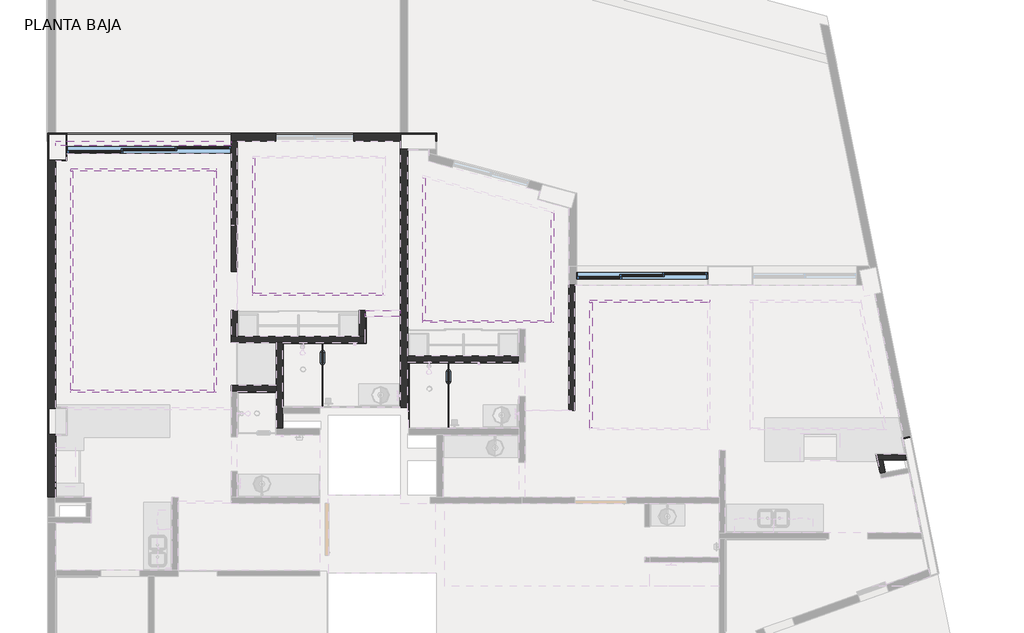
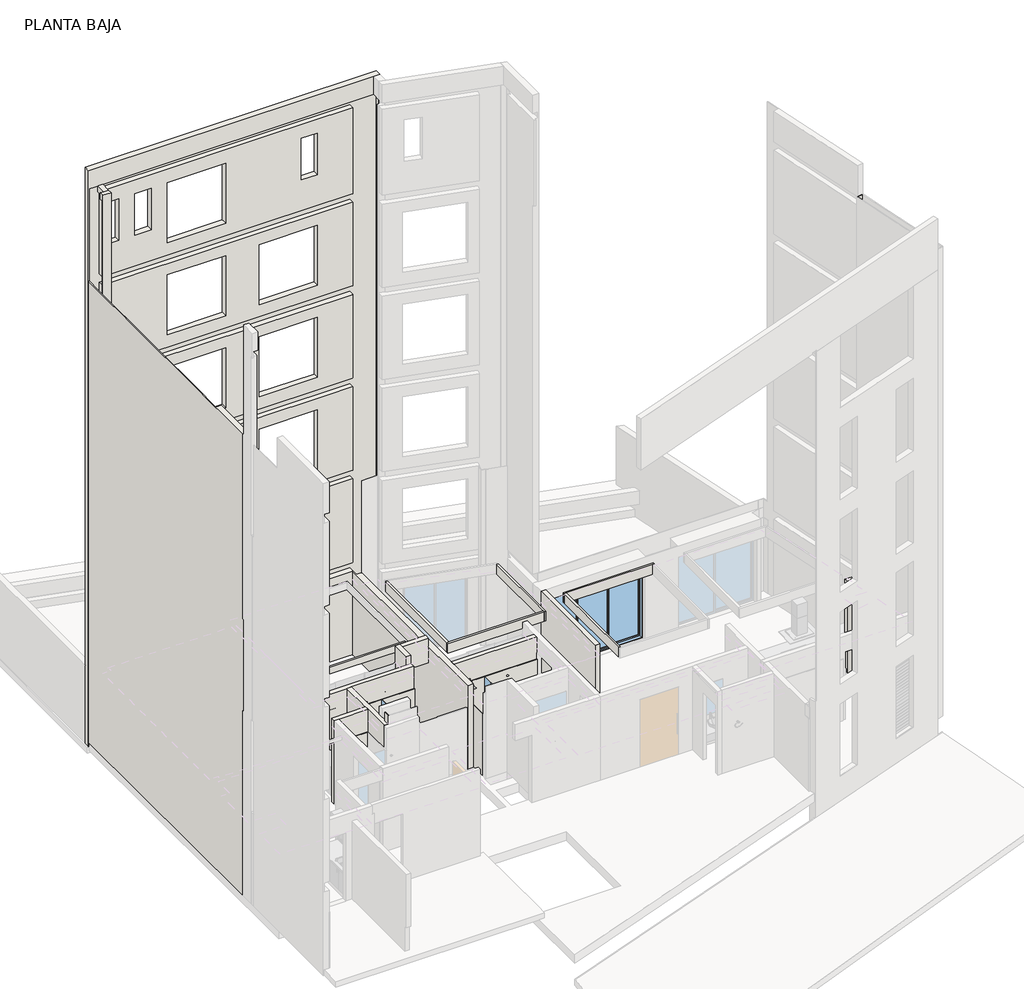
# One storey, part 6 of 8: 35 walls, 4 windows.
"""IFC4 building model written with IfcOpenShell, lengths in millimetres."""

from ifc_helpers import new_model, si_unit, frame, origin, origin_with_axes, place, context, project, spatial, polyline, outline, extrude, faceted_brep, transform, mapped, element, save
from components import window_a96bf420, window_c8eb3da8, window_f2be9482, window_db60b2a9

model = new_model("IFC4")

# Units and contexts
model_context = context("Model", 3, world=origin())
ifc_project = project(units=[si_unit("LENGTHUNIT", "METRE", prefix="MILLI")], contexts=[model_context])

# Site, building, storey
site = spatial("IfcSite", under=ifc_project)
building = spatial("IfcBuilding", under=site)
storey = spatial("IfcBuildingStorey", under=building, Name="PLANTA BAJA", Elevation=0.0)

# Walls
placement = place(None, origin())
element("IfcWall", 1, ObjectType="Muro block 12cms_int_ductos", at=placement, inside=storey, context=model_context, shape_type="SweptSolid", body=[
    extrude(outline(polyline([(53207.9252394, 30724.0100923), (53265.5912187, 30436.0959933), (53147.9280777, 30412.5293799), (53085.5419689, 30724.0100923), (53207.9252394, 30724.0100923)])), origin_with_axes(), (0.0, 0.0, 1.0), 3000.0),
])
element("IfcWall", 2, ObjectType="Muro block 12cms_int_ductos", at=placement, inside=storey, context=model_context, shape_type="Brep", body=[
    faceted_brep([(53085.5419689, 30724.0100923, 0.0), (53207.9252394, 30724.0100923, 0.0), (53760.5143431, 30724.0100923, 0.0), (53760.5143431, 30724.0100923, 3000.0), (53207.9252394, 30724.0100923, 3000.0), (53085.5419689, 30724.0100923, 3000.0), (53061.5073088, 30844.0100923, 0.0), (53061.5073088, 30844.0100923, 3000.0), (53736.479683, 30844.0100923, 3000.0), (53736.479683, 30844.0100923, 0.0)], [[[0, 1, 2, 3, 4, 5]], [[6, 7, 8, 9]], [[2, 1, 0, 6, 9]], [[5, 4, 3, 8, 7]], [[0, 5, 7, 6]], [[3, 2, 9, 8]]]),
])
element("IfcWall", 3, ObjectType="Plafond tablaroca", at=placement, inside=storey, context=model_context, shape_type="Brep", body=[
    faceted_brep([(34490.0408562, 37390.7875956, 2502.7), (34542.7408562, 37390.7875956, 2502.7), (37794.5300226, 37390.7875956, 2502.7), (37847.2300226, 37390.7875956, 2502.7), (37847.2300226, 37390.7875956, 2720.0), (37794.5300226, 37390.7875956, 2720.0), (34542.7408562, 37390.7875956, 2720.0), (34490.0408562, 37390.7875956, 2720.0), (34490.0408562, 37443.4875956, 2502.7), (34490.0408562, 37443.4875956, 2720.0), (37847.2300226, 37443.4875956, 2720.0), (37847.2300226, 37443.4875956, 2502.7)], [[[0, 1, 2, 3, 4, 5, 6, 7]], [[8, 9, 10, 11]], [[7, 6, 5, 4, 10, 9]], [[4, 3, 11, 10]], [[0, 7, 9, 8]], [[3, 2, 1, 0, 8, 11]]]),
])
element("IfcWall", 4, ObjectType="Plafond tablaroca", at=placement, inside=storey, context=model_context, shape_type="Brep", body=[
    faceted_brep([(37794.5300226, 37390.7875956, 2502.7), (37794.5300226, 32333.9733508, 2502.7), (37794.5300226, 32281.2733508, 2502.7), (37794.5300226, 32281.2733508, 2720.0), (37794.5300226, 32333.9733508, 2720.0), (37794.5300226, 37390.7875956, 2720.0), (37847.2300226, 37390.7875956, 2502.7), (37847.2300226, 37390.7875956, 2720.0), (37847.2300226, 32281.2733508, 2720.0), (37847.2300226, 32281.2733508, 2502.7)], [[[0, 1, 2, 3, 4, 5]], [[6, 7, 8, 9]], [[5, 4, 3, 8, 7]], [[0, 5, 7, 6]], [[3, 2, 9, 8]], [[2, 1, 0, 6, 9]]]),
])
element("IfcWall", 5, ObjectType="Plafond tablaroca", at=placement, inside=storey, context=model_context, shape_type="Brep", body=[
    faceted_brep([(37794.5300226, 32333.9733508, 2502.7), (34542.7408562, 32333.9733508, 2502.7), (34490.0408562, 32333.9733508, 2502.7), (34490.0408562, 32333.9733508, 2720.0), (34542.7408562, 32333.9733508, 2720.0), (37794.5300226, 32333.9733508, 2720.0), (37794.5300226, 32281.2733508, 2502.7), (37794.5300226, 32281.2733508, 2720.0), (34490.0408562, 32281.2733508, 2720.0), (34490.0408562, 32281.2733508, 2502.7)], [[[0, 1, 2, 3, 4, 5]], [[6, 7, 8, 9]], [[5, 4, 3, 8, 7]], [[0, 5, 7, 6]], [[3, 2, 9, 8]], [[2, 1, 0, 6, 9]]]),
])
element("IfcWall", 6, ObjectType="Plafond tablaroca", at=placement, inside=storey, context=model_context, shape_type="SweptSolid", body=[
    extrude(outline(polyline([(34542.7408562, 37390.7875956), (34542.7408562, 32333.9733508), (34490.0408562, 32333.9733508), (34490.0408562, 37390.7875956), (34542.7408562, 37390.7875956)])), frame((0.0, 0.0, 2502.7), z_axis=(0.0, 0.0, 1.0), x_axis=(1.0, 0.0, 0.0)), (0.0, 0.0, 1.0), 217.3),
])
element("IfcWall", 7, ObjectType="Plafond tablaroca", at=placement, inside=storey, context=model_context, shape_type="Brep", body=[
    faceted_brep([(41684.5059119, 34568.9785701, 2502.7), (38734.5300226, 34568.9785701, 2502.7), (38681.8300226, 34568.9785701, 2502.7), (38681.8300226, 34568.9785701, 2720.0), (38734.5300226, 34568.9785701, 2720.0), (41684.5059119, 34568.9785701, 2720.0), (41684.5059119, 34516.2785701, 2502.7), (41684.5059119, 34516.2785701, 2720.0), (38681.8300226, 34516.2785701, 2720.0), (38681.8300226, 34516.2785701, 2502.7)], [[[0, 1, 2, 3, 4, 5]], [[6, 7, 8, 9]], [[5, 4, 3, 8, 7]], [[0, 5, 7, 6]], [[3, 2, 9, 8]], [[2, 1, 0, 6, 9]]]),
])
element("IfcWall", 8, ObjectType="Plafond tablaroca", at=placement, inside=storey, context=model_context, shape_type="SweptSolid", body=[
    extrude(outline(polyline([(38734.5300226, 37680.4026232), (38734.5300226, 34568.9785701), (38681.8300226, 34568.9785701), (38681.8300226, 37680.4026232), (38734.5300226, 37680.4026232)])), frame((0.0, 0.0, 2502.7), z_axis=(0.0, 0.0, 1.0), x_axis=(1.0, 0.0, 0.0)), (0.0, 0.0, 1.0), 217.3),
])
element("IfcWall", 9, ObjectType="Plafond tablaroca", at=placement, inside=storey, context=model_context, shape_type="Brep", body=[
    faceted_brep([(45574.5059119, 36436.8800645, 2402.7), (45574.5059119, 33944.0113898, 2402.7), (45574.5059119, 33891.3113898, 2402.7), (45574.5059119, 33891.3113898, 2720.0), (45574.5059119, 33944.0113898, 2720.0), (45574.5059119, 36436.8800645, 2720.0), (45627.2059119, 36422.7090546, 2402.7), (45627.2059119, 36422.7090546, 2720.0), (45627.2059119, 33891.3113898, 2720.0), (45627.2059119, 33891.3113898, 2402.7)], [[[0, 1, 2, 3, 4, 5]], [[6, 7, 8, 9]], [[5, 4, 3, 8, 7]], [[0, 5, 7, 6]], [[3, 2, 9, 8]], [[2, 1, 0, 6, 9]]]),
])
element("IfcWall", 10, ObjectType="Plafond tablaroca", at=placement, inside=storey, context=model_context, shape_type="Brep", body=[
    faceted_brep([(45574.5059119, 33944.0113898, 2402.7), (42664.5059119, 33944.0113898, 2402.7), (42611.8059119, 33944.0113898, 2402.7), (42611.8059119, 33944.0113898, 2720.0), (42664.5059119, 33944.0113898, 2720.0), (45574.5059119, 33944.0113898, 2720.0), (45574.5059119, 33891.3113898, 2402.7), (45574.5059119, 33891.3113898, 2720.0), (42611.8059119, 33891.3113898, 2720.0), (42611.8059119, 33891.3113898, 2402.7)], [[[0, 1, 2, 3, 4, 5]], [[6, 7, 8, 9]], [[5, 4, 3, 8, 7]], [[0, 5, 7, 6]], [[3, 2, 9, 8]], [[2, 1, 0, 6, 9]]]),
])
element("IfcWall", 11, ObjectType="Plafond tablaroca", at=placement, inside=storey, context=model_context, shape_type="SweptSolid", body=[
    extrude(outline(polyline([(42664.5059119, 37219.3779563), (42664.5059119, 33944.0113898), (42611.8059119, 33944.0113898), (42611.8059119, 37233.5489662), (42664.5059119, 37219.3779563)])), frame((0.0, 0.0, 2402.7), z_axis=(0.0, 0.0, 1.0), x_axis=(1.0, 0.0, 0.0)), (0.0, 0.0, 1.0), 317.3),
])
element("IfcWall", 12, ObjectType="Plafond tablaroca", at=placement, inside=storey, context=model_context, shape_type="Brep", body=[
    faceted_brep([(46461.8059119, 34354.0104642, 2402.7), (46514.5059119, 34354.0104642, 2402.7), (49174.5059119, 34354.0104642, 2402.7), (49227.2059119, 34354.0104642, 2402.7), (49227.2059119, 34354.0104642, 2720.0), (49174.5059119, 34354.0104642, 2720.0), (46514.5059119, 34354.0104642, 2720.0), (46461.8059119, 34354.0104642, 2720.0), (46461.8059119, 34406.7104642, 2402.7), (46461.8059119, 34406.7104642, 2720.0), (49227.2059119, 34406.7104642, 2720.0), (49227.2059119, 34406.7104642, 2402.7)], [[[0, 1, 2, 3, 4, 5, 6, 7]], [[8, 9, 10, 11]], [[7, 6, 5, 4, 10, 9]], [[4, 3, 11, 10]], [[0, 7, 9, 8]], [[3, 2, 1, 0, 8, 11]]]),
])
element("IfcWall", 13, ObjectType="Plafond tablaroca", at=placement, inside=storey, context=model_context, shape_type="SweptSolid", body=[
    extrude(outline(polyline([(46514.5059119, 34354.0104642), (46514.5059119, 31464.0100656), (46461.8059119, 31464.0100656), (46461.8059119, 34354.0104642), (46514.5059119, 34354.0104642)])), frame((0.0, 0.0, 2402.7), z_axis=(0.0, 0.0, 1.0), x_axis=(1.0, 0.0, 0.0)), (0.0, 0.0, 1.0), 317.3),
])
element("IfcWall", 14, ObjectType="Muro solo enjarre -2cms", at=placement, inside=storey, context=model_context, shape_type="SweptSolid", body=[
    extrude(outline(polyline([(53679.3134026, 31231.2682854), (53846.0028523, 31264.654321), (53849.9306212, 31245.0437975), (53683.2411715, 31211.657762), (53679.3134026, 31231.2682854)])), frame((0.0, 0.0, -280.0), z_axis=(0.0, 0.0, 1.0), x_axis=(1.0, 0.0, 0.0)), (0.0, 0.0, 1.0), 15280.0),
])
element("IfcWall", 15, ObjectType="Cerámica baño", at=placement, inside=storey, context=model_context, shape_type="Brep", body=[
    faceted_brep([(39394.5300226, 31953.9733508, 0.0), (39394.5300226, 33408.9784839, 0.0), (39394.5300226, 33428.9784839, 0.0), (39394.5300226, 33428.9784839, 2000.0), (39394.5300226, 33408.9784839, 2000.0), (39394.5300226, 31953.9733508, 2000.0), (39374.5300226, 31953.9733508, 0.0), (39374.5300226, 31953.9733508, 2000.0), (39374.5300226, 33428.9784839, 2000.0), (39374.5300226, 33428.9784839, 0.0)], [[[0, 1, 2, 3, 4, 5]], [[6, 7, 8, 9]], [[2, 1, 0, 6, 9]], [[5, 4, 3, 8, 7]], [[3, 2, 9, 8]], [[0, 5, 7, 6]]]),
])
element("IfcWall", 16, ObjectType="Cerámica baño", at=placement, inside=storey, context=model_context, shape_type="Brep", body=[
    faceted_brep([(39394.5300226, 33408.9784839, 0.0), (41304.5059119, 33408.9784839, 0.0), (41304.5059119, 33408.9784839, 2000.0), (39394.5300226, 33408.9784839, 2000.0), (39394.5300226, 33428.9784839, 0.0), (39394.5300226, 33428.9784839, 2000.0), (41304.5059119, 33428.9784839, 2000.0), (41304.5059119, 33428.9784839, 1000.0), (41304.5059119, 33428.9784839, 0.0), (41284.5059119, 33428.9784839, 0.0)], [[[0, 1, 2, 3]], [[4, 5, 6, 7, 8, 9]], [[1, 0, 4, 9, 8]], [[3, 2, 6, 5]], [[0, 3, 5, 4]], [[2, 1, 8, 7, 6]]]),
])
element("IfcWall", 17, ObjectType="Cerámica baño", at=placement, inside=storey, context=model_context, shape_type="Brep", body=[
    faceted_brep([(42299.5059119, 31464.0104754, 0.0), (42299.5059119, 32964.0113856, 0.0), (42299.5059119, 32984.0113856, 0.0), (42299.5059119, 32984.0113856, 2000.0), (42299.5059119, 32964.0113856, 2000.0), (42299.5059119, 31464.0104754, 2000.0), (42279.5059119, 31464.0104754, 0.0), (42279.5059119, 31464.0104754, 2000.0), (42279.5059119, 32984.0113856, 2000.0), (42279.5059119, 32984.0113856, 0.0)], [[[0, 1, 2, 3, 4, 5]], [[6, 7, 8, 9]], [[2, 1, 0, 6, 9]], [[5, 4, 3, 8, 7]], [[3, 2, 9, 8]], [[0, 5, 7, 6]]]),
])
element("IfcWall", 18, ObjectType="Cerámica baño", at=placement, inside=storey, context=model_context, shape_type="SweptSolid", body=[
    extrude(outline(polyline([(44824.5251366, 32964.0113856), (42299.5059119, 32964.0113856), (42299.5059119, 32984.0113856), (44824.5251366, 32984.0113856), (44824.5251366, 32964.0113856)])), origin_with_axes(), (0.0, 0.0, 1.0), 2000.0),
])
element("IfcWall", 19, ObjectType="Cerámica baño", at=placement, inside=storey, context=model_context, shape_type="SweptSolid", body=[
    extrude(outline(polyline([(41304.5059119, 34028.9785701), (41304.5059119, 33428.9784839), (41284.5059119, 33428.9784839), (41284.5059119, 34028.9785701), (41304.5059119, 34028.9785701)])), origin_with_axes(), (0.0, 0.0, 1.0), 1000.0),
])
element("IfcWall", 20, ObjectType="Cerámica baño", at=placement, inside=storey, context=model_context, shape_type="Brep", body=[
    faceted_brep([(39214.5300226, 32304.010477, 0.0), (38334.5300226, 32304.010477, 0.0), (38334.5300226, 32304.010477, 2000.0), (39214.5300226, 32304.010477, 2000.0), (39214.5300226, 32284.010477, 0.0), (39214.5300226, 32284.010477, 2000.0), (38354.5300226, 32284.010477, 2000.0), (38334.5300226, 32284.010477, 2000.0), (38334.5300226, 32284.010477, 0.0), (38354.5300226, 32284.010477, 0.0)], [[[0, 1, 2, 3]], [[4, 5, 6, 7, 8, 9]], [[1, 0, 4, 9, 8]], [[3, 2, 7, 6, 5]], [[2, 1, 8, 7]], [[0, 3, 5, 4]]]),
])
element("IfcWall", 21, ObjectType="Muro block 14cms_int", at=placement, inside=storey, context=model_context, shape_type="Brep", body=[
    faceted_brep([(39374.5300226, 31444.010477, 0.0), (39374.5300226, 31793.9733508, 0.0), (39374.5300226, 31933.9733508, 0.0), (39374.5300226, 33428.9784839, 0.0), (39374.5300226, 33428.9784839, 2720.0), (39374.5300226, 31613.9733508, 2720.0), (39374.5300226, 31613.9733508, 3000.0), (39374.5300226, 31444.010477, 3000.0), (39234.5300226, 33428.9784839, 0.0), (39234.5300226, 32444.010477, 0.0), (39234.5300226, 32304.010477, 0.0), (39234.5300226, 31444.010477, 0.0), (39234.5300226, 31444.010477, 2720.0), (39234.5300226, 32304.010477, 2720.0), (39234.5300226, 32444.010477, 2720.0), (39234.5300226, 33428.9784839, 2720.0), (39354.5300226, 31613.9733508, 3000.0), (39354.5300226, 31444.010477, 3000.0), (39354.5300226, 31613.9733508, 2720.0), (39354.5300226, 31444.010477, 2720.0)], [[[0, 1, 2, 3, 4, 5, 6, 7]], [[8, 9, 10, 11, 12, 13, 14, 15]], [[3, 2, 1, 0, 11, 10, 9, 8]], [[7, 6, 16, 17]], [[3, 8, 15, 4]], [[18, 5, 4, 15, 14, 13, 12, 19]], [[16, 18, 19, 17]], [[18, 16, 6, 5]], [[0, 7, 17, 19, 12, 11]]]),
])
element("IfcWall", 22, ObjectType="Muro block 14cms_int", at=placement, inside=storey, context=model_context, shape_type="Brep", body=[
    faceted_brep([(41284.5059119, 33568.9784839, 0.0), (41144.5059119, 33568.9784839, 0.0), (38334.5300226, 33568.9784839, 0.0), (38194.5300226, 33568.9784839, 0.0), (38194.5300226, 33568.9784839, 2720.0), (41284.5059119, 33568.9784839, 2720.0), (38194.5300226, 33428.9784839, 0.0), (39234.5300226, 33428.9784839, 0.0), (39374.5300226, 33428.9784839, 0.0), (41284.5059119, 33428.9784839, 0.0), (41284.5059119, 33428.9784839, 2720.0), (39374.5300226, 33428.9784839, 2720.0), (39234.5300226, 33428.9784839, 2720.0), (38194.5300226, 33428.9784839, 2720.0)], [[[0, 1, 2, 3, 4, 5]], [[6, 7, 8, 9, 10, 11, 12, 13]], [[3, 2, 1, 0, 9, 8, 7, 6]], [[3, 6, 13, 4]], [[9, 0, 5, 10]], [[5, 4, 13, 12, 11, 10]]]),
])
element("IfcWall", 23, ObjectType="Muro block 14cms_int", at=placement, inside=storey, context=model_context, shape_type="Brep", body=[
    faceted_brep([(38334.5300226, 38080.4026232, 3000.0), (38334.5300226, 33568.9784839, 3000.0), (38334.5300226, 33568.9784839, 0.0), (38334.5300226, 34168.9785701, 0.0), (38334.5300226, 34168.9785701, 2200.0), (38334.5300226, 35068.9785701, 2200.0), (38334.5300226, 35068.9785701, 0.0), (38334.5300226, 38080.4026232, 0.0), (38194.5300226, 33568.9784839, 3000.0), (38194.5300226, 38080.4026232, 3000.0), (38194.5300226, 38080.4026232, 2720.0), (38194.5300226, 38080.4026232, 2350.0), (38194.5300226, 38080.4026232, 0.0), (38194.5300226, 35068.9785701, 0.0), (38194.5300226, 35068.9785701, 2200.0), (38194.5300226, 34168.9785701, 2200.0), (38194.5300226, 34168.9785701, 0.0), (38194.5300226, 33568.9784839, 0.0), (38194.5300226, 33568.9784839, 2720.0)], [[[0, 1, 2, 3, 4, 5, 6, 7]], [[8, 9, 10, 11, 12, 13, 14, 15, 16, 17, 18]], [[2, 17, 16, 3]], [[12, 7, 6, 13]], [[1, 0, 9, 8]], [[2, 1, 8, 18, 17]], [[0, 7, 12, 11, 10, 9]], [[15, 4, 3, 16]], [[4, 15, 14, 5]], [[5, 14, 13, 6]]]),
])
element("IfcWall", 24, ObjectType="Muro block 14cms_int", at=placement, inside=storey, context=model_context, shape_type="Brep", body=[
    faceted_brep([(41284.5059119, 33568.9784839, 0.0), (41284.5059119, 34168.9785701, 0.0), (41284.5059119, 34168.9785701, 2200.0), (41284.5059119, 34168.9785701, 3000.0), (41284.5059119, 34028.9785701, 3000.0), (41284.5059119, 33568.9784839, 3000.0), (41284.5059119, 33568.9784839, 2720.0), (41144.5059119, 33568.9784839, 0.0), (41144.5059119, 33568.9784839, 3000.0), (41144.5059119, 34168.9785701, 3000.0), (41144.5059119, 34168.9785701, 0.0)], [[[0, 1, 2, 3, 4, 5, 6]], [[7, 8, 9, 10]], [[1, 0, 7, 10]], [[5, 4, 3, 9, 8]], [[0, 6, 5, 8, 7]], [[3, 2, 1, 10, 9]]]),
])
element("IfcWall", 25, ObjectType="Muro block 14cms_int", at=placement, inside=storey, context=model_context, shape_type="SweptSolid", body=[
    extrude(outline(polyline([(42084.5059119, 34028.9785701), (41284.5059119, 34028.9785701), (41284.5059119, 34168.9785701), (42084.5059119, 34168.9785701), (42084.5059119, 34028.9785701)])), frame((0.0, 0.0, 2200.0), z_axis=(0.0, 0.0, 1.0), x_axis=(1.0, 0.0, 0.0)), (0.0, 0.0, 1.0), 800.0),
])
element("IfcWall", 26, ObjectType="Muro block 14cms_int", at=placement, inside=storey, context=model_context, shape_type="Brep", body=[
    faceted_brep([(42264.5059119, 32984.0113856, 0.0), (44824.5251366, 32984.0113856, 0.0), (44824.5251366, 32984.0113856, 2200.0), (44824.5251366, 32984.0113856, 2720.0), (42264.5059119, 32984.0113856, 2720.0), (44824.5251366, 33124.0113856, 0.0), (42264.5059119, 33124.0113856, 0.0), (42264.5059119, 33124.0113856, 2720.0), (44824.5251366, 33124.0113856, 2720.0)], [[[0, 1, 2, 3, 4]], [[5, 6, 7, 8]], [[1, 0, 6, 5]], [[6, 0, 4, 7]], [[1, 5, 8, 3, 2]], [[4, 3, 8, 7]]]),
])
element("IfcWall", 27, ObjectType="Muro block 14cms_int", at=placement, inside=storey, context=model_context, shape_type="SweptSolid", body=[
    extrude(outline(polyline([(46114.5059119, 34754.0104642), (46114.5059119, 31864.0100656), (45974.5059119, 31864.0100656), (45974.5059119, 34754.0104642), (46114.5059119, 34754.0104642)])), origin_with_axes(), (0.0, 0.0, 1.0), 2720.0),
])
element("IfcWall", 28, ObjectType="Muro block 14cms_int", at=placement, inside=storey, context=model_context, shape_type="Brep", body=[
    faceted_brep([(34258.8589874, 37765.4026232, 18000.0), (34258.8589874, 38080.4026232, 18000.0), (34258.8589874, 38080.4026232, 17800.0), (34258.8589874, 37765.4026232, 17800.0), (34398.8589874, 37765.4026232, 0.0), (34398.8589874, 38080.4026232, 0.0), (34398.8589874, 38080.4026232, 16000.0), (34398.8589874, 38080.4026232, 17350.0), (34398.8589874, 38080.4026232, 18000.0), (34398.8589874, 37765.4026232, 18000.0), (34383.8589874, 37765.4026232, 0.0), (34383.8589874, 38080.4026232, 0.0), (34397.8300226, 38080.4026232, 0.0), (34383.8589874, 37765.4026232, 17800.0), (34383.8589874, 38080.4026232, 17800.0), (34383.8589874, 38080.4026232, 15000.0), (34383.8589874, 38080.4026232, 14720.0), (34383.8589874, 38080.4026232, 12000.0), (34383.8589874, 38080.4026232, 11720.0), (34383.8589874, 38080.4026232, 9000.0), (34383.8589874, 38080.4026232, 8720.0), (34383.8589874, 38080.4026232, 6000.0), (34383.8589874, 38080.4026232, 5720.0), (34383.8589874, 38080.4026232, 3000.0), (34383.8589874, 38080.4026232, 2720.0)], [[[0, 1, 2, 3]], [[4, 5, 6, 7, 8, 9]], [[5, 4, 10, 11, 12]], [[1, 0, 9, 8]], [[4, 9, 0, 3, 13, 10]], [[13, 14, 15, 16, 17, 18, 19, 20, 21, 22, 23, 24, 11, 10]], [[1, 8, 7, 6, 5, 12, 11, 24, 23, 22, 21, 20, 19, 18, 17, 16, 15, 14, 2]], [[14, 13, 3, 2]]]),
])
element("IfcWall", 29, ObjectType="Muro block 14cms_int", at=placement, inside=storey, context=model_context, shape_type="Brep", body=[
    faceted_brep([(34143.8589874, 37765.4026232, 18000.0), (34258.8589874, 37765.4026232, 18000.0), (34398.8589874, 37765.4026232, 18000.0), (34398.8589874, 37765.4026232, 0.0), (34383.8589874, 37765.4026232, 0.0), (34383.8589874, 37765.4026232, 17800.0), (34258.8589874, 37765.4026232, 17800.0), (34143.8589874, 37765.4026232, 17800.0), (34143.8589874, 37625.4026232, 0.0), (34398.8589874, 37625.4026232, 0.0), (34398.8589874, 37625.4026232, 18000.0), (34143.8589874, 37625.4026232, 18000.0), (34143.8589874, 37640.4026232, 0.0), (34383.8589874, 37640.4026232, 0.0), (34383.8589874, 37640.4026232, 17800.0), (34143.8589874, 37640.4026232, 2720.0), (34143.8589874, 37640.4026232, 3000.0), (34143.8589874, 37640.4026232, 5720.0), (34143.8589874, 37640.4026232, 6000.0), (34143.8589874, 37640.4026232, 8720.0), (34143.8589874, 37640.4026232, 9000.0), (34143.8589874, 37640.4026232, 11720.0), (34143.8589874, 37640.4026232, 12000.0), (34143.8589874, 37640.4026232, 14720.0), (34143.8589874, 37640.4026232, 15000.0), (34143.8589874, 37640.4026232, 17800.0)], [[[0, 1, 2, 3, 4, 5, 6, 7]], [[8, 9, 10, 11]], [[9, 8, 12, 13, 4, 3]], [[2, 1, 0, 11, 10]], [[3, 2, 10, 9]], [[13, 14, 5, 4]], [[14, 13, 12, 15, 16, 17, 18, 19, 20, 21, 22, 23, 24, 25]], [[5, 14, 25, 7, 6]], [[11, 0, 7, 25, 24, 23, 22, 21, 20, 19, 18, 17, 16, 15, 12, 8]]]),
])
element("IfcWall", 30, ObjectType="Muro block 14cms_int", at=placement, inside=storey, context=model_context, shape_type="Brep", body=[
    faceted_brep([(39234.5300226, 32444.010477, 0.0), (38194.5300226, 32444.010477, 0.0), (38194.5300226, 32444.010477, 2720.0), (39234.5300226, 32444.010477, 2720.0), (38194.5300226, 32304.010477, 0.0), (38334.5300226, 32304.010477, 0.0), (39234.5300226, 32304.010477, 0.0), (39234.5300226, 32304.010477, 2720.0), (38334.5300226, 32304.010477, 2720.0), (38194.5300226, 32304.010477, 2720.0)], [[[0, 1, 2, 3]], [[4, 5, 6, 7, 8, 9]], [[1, 0, 6, 5, 4]], [[6, 0, 3, 7]], [[1, 4, 9, 2]], [[3, 2, 9, 8, 7]]]),
])
element("IfcWall", 31, ObjectType="Muro block 18cms_ext", at=placement, inside=storey, context=model_context, shape_type="Brep", body=[
    faceted_brep([(33963.8589874, 38080.4026232, 0.0), (33963.8589874, 29864.010184, 0.0), (33963.8589874, 29864.010184, 6000.0), (33963.8589874, 29804.010184, 6000.0), (33963.8589874, 29804.010184, 9000.0), (33963.8589874, 29864.010184, 9000.0), (33963.8589874, 29864.010184, 15000.0), (33963.8589874, 38080.4026232, 15000.0), (34143.8589874, 31313.9733508, 8720.0), (34143.8589874, 29804.010184, 8720.0), (34143.8589874, 29804.010184, 6000.0), (34143.8589874, 29864.010184, 6000.0), (34143.8589874, 31313.9733508, 6000.0), (34143.8589874, 29864.010184, 9000.0), (34143.8589874, 31313.9733508, 9000.0), (34143.8589874, 31313.9733508, 11720.0), (34143.8589874, 29864.010184, 11720.0), (34143.8589874, 29864.010184, 12000.0), (34143.8589874, 31313.9733508, 12000.0), (34143.8589874, 31313.9733508, 15000.0), (34143.8589874, 29864.010184, 15000.0), (34143.8589874, 31913.9733508, 12000.0), (34143.8589874, 33428.9784839, 12000.0), (34143.8589874, 33568.9784839, 12000.0), (34143.8589874, 37640.4026232, 12000.0), (34143.8589874, 37640.4026232, 14720.0), (34143.8589874, 33568.9784839, 14720.0), (34143.8589874, 33428.9784839, 14720.0), (34143.8589874, 31913.9733508, 14720.0), (34143.8589874, 29864.010184, 0.0), (34143.8589874, 31298.9733508, 0.0), (34143.8589874, 31313.9733508, 0.0), (34143.8589874, 31313.9733508, 2720.0), (34143.8589874, 29864.010184, 2720.0), (34143.8589874, 37640.4026232, 0.0), (34143.8589874, 37640.4026232, 2720.0), (34143.8589874, 31913.9733508, 2720.0), (34143.8589874, 31913.9733508, 0.0), (34143.8589874, 31928.9733508, 0.0), (34143.8589874, 37625.4026232, 0.0), (34143.8589874, 37640.4026232, 3000.0), (34143.8589874, 37640.4026232, 5720.0), (34143.8589874, 34168.9785701, 5720.0), (34143.8589874, 34028.9785701, 5720.0), (34143.8589874, 31928.9733508, 5720.0), (34143.8589874, 31913.9733508, 5720.0), (34143.8589874, 31913.9733508, 3000.0), (34143.8589874, 34028.9785701, 3000.0), (34143.8589874, 34168.9785701, 3000.0), (34143.8589874, 37640.4026232, 9000.0), (34143.8589874, 37640.4026232, 11720.0), (34143.8589874, 31913.9733508, 11720.0), (34143.8589874, 31913.9733508, 9000.0), (34143.8589874, 34028.9785701, 9000.0), (34143.8589874, 34168.9785701, 9000.0), (34143.8589874, 31913.9733508, 6000.0), (34143.8589874, 34028.9785701, 6000.0), (34143.8589874, 34168.9785701, 6000.0), (34143.8589874, 37640.4026232, 6000.0), (34143.8589874, 37640.4026232, 8720.0), (34143.8589874, 34168.9785701, 8720.0), (34143.8589874, 34028.9785701, 8720.0), (34143.8589874, 31913.9733508, 8720.0), (34143.8589874, 31313.9733508, 5720.0), (34143.8589874, 31298.9733508, 5720.0), (34143.8589874, 29864.010184, 5720.0), (34143.8589874, 29864.010184, 3000.0), (34143.8589874, 31313.9733508, 3000.0), (33983.8589874, 38080.4026232, 0.0), (33983.8589874, 37640.4026232, 0.0), (33983.8589874, 31913.9733508, 0.0), (33983.8589874, 31313.9733508, 0.0), (34123.8589874, 29864.010184, 0.0), (33983.8589874, 37640.4026232, 2720.0), (33983.8589874, 31913.9733508, 2720.0), (33983.8589874, 31313.9733508, 2720.0), (33983.8589874, 29864.010184, 2720.0), (33983.8589874, 37640.4026232, 3000.0), (33983.8589874, 31913.9733508, 3000.0), (34123.8589874, 29864.010184, 3000.0), (33983.8589874, 29864.010184, 3000.0), (33983.8589874, 31313.9733508, 3000.0), (33983.8589874, 38080.4026232, 15000.0), (33983.8589874, 37640.4026232, 15000.0), (33983.8589874, 31913.9733508, 15000.0), (33983.8589874, 31795.8797551, 15000.0), (33983.8589874, 31313.9733508, 15000.0), (33983.8589874, 31313.9733508, 12000.0), (33983.8589874, 29864.010184, 12000.0), (33983.8589874, 29864.010184, 11720.0), (33983.8589874, 31313.9733508, 11720.0), (33983.8589874, 31313.9733508, 9000.0), (33983.8589874, 29864.010184, 9000.0), (33983.8589874, 29804.010184, 9000.0), (33983.8589874, 29804.010184, 8720.0), (33983.8589874, 31313.9733508, 8720.0), (33983.8589874, 31313.9733508, 6000.0), (33983.8589874, 29864.010184, 6000.0), (33983.8589874, 29864.010184, 5720.0), (33983.8589874, 31313.9733508, 5720.0), (33983.8589874, 31913.9733508, 5720.0), (33983.8589874, 37640.4026232, 5720.0), (33983.8589874, 37640.4026232, 6000.0), (33983.8589874, 31913.9733508, 6000.0), (33983.8589874, 31913.9733508, 8720.0), (33983.8589874, 37640.4026232, 8720.0), (33983.8589874, 37640.4026232, 9000.0), (33983.8589874, 31913.9733508, 9000.0), (33983.8589874, 31913.9733508, 11720.0), (33983.8589874, 37640.4026232, 11720.0), (33983.8589874, 31913.9733508, 12000.0), (33983.8589874, 31913.9733508, 14720.0), (33983.8589874, 37640.4026232, 14720.0), (33983.8589874, 37640.4026232, 12000.0), (34123.8589874, 29864.010184, 15000.0), (34123.8589874, 29864.010184, 9000.0), (34123.8589874, 29864.010184, 12000.0), (34123.8589874, 29804.010184, 6000.0)], [[[0, 1, 2, 3, 4, 5, 6, 7]], [[8, 9, 10, 11, 12]], [[13, 14, 15, 16]], [[17, 18, 19, 20]], [[21, 22, 23, 24, 25, 26, 27, 28]], [[29, 30, 31, 32, 33]], [[34, 35, 36, 37, 38, 39]], [[40, 41, 42, 43, 44, 45, 46, 47, 48]], [[49, 50, 51, 52, 53, 54]], [[55, 56, 57, 58, 59, 60, 61, 62]], [[63, 64, 65, 66, 67]], [[1, 0, 68, 69, 34, 39, 38, 37, 70, 71, 31, 30, 29, 72]], [[35, 73, 74, 36]], [[33, 32, 75, 76]], [[77, 40, 48, 47, 46, 78]], [[67, 66, 79, 80, 81]], [[73, 69, 68, 82, 83, 84, 85, 86, 87, 88, 89, 90, 91, 92, 93, 94, 95, 96, 97, 98, 99, 81, 80, 76, 75, 71, 70, 74], [77, 78, 100, 101], [102, 103, 104, 105], [106, 107, 108, 109], [110, 111, 112, 113]], [[7, 6, 114, 20, 19, 86, 85, 84, 83, 82]], [[69, 73, 35, 34]], [[58, 102, 105, 59]], [[49, 106, 109, 50]], [[24, 113, 112, 25]], [[41, 40, 77, 101]], [[71, 75, 32, 31]], [[67, 81, 99, 63]], [[86, 19, 18, 87]], [[12, 96, 95, 8]], [[14, 91, 90, 15]], [[74, 70, 37, 36]], [[78, 46, 45, 100]], [[103, 55, 62, 104]], [[107, 52, 51, 108]], [[110, 21, 28, 111]], [[65, 64, 63, 99, 98]], [[45, 44, 43, 42, 41, 101, 100]], [[9, 8, 95, 94]], [[62, 61, 60, 59, 105, 104]], [[14, 13, 115, 92, 91]], [[106, 49, 54, 53, 52, 107]], [[16, 15, 90, 89]], [[51, 50, 109, 108]], [[18, 17, 116, 88, 87]], [[24, 23, 22, 21, 110, 113]], [[58, 57, 56, 55, 103, 102]], [[3, 2, 97, 96, 12, 11, 10, 117]], [[4, 3, 117, 10, 9, 94, 93]], [[5, 4, 93, 92]], [[1, 72, 29, 33, 76, 80, 79, 66, 65, 98, 97, 2]], [[6, 5, 92, 115, 13, 16, 89, 88, 116, 17, 20, 114]], [[0, 7, 82, 68]], [[112, 111, 28, 27, 26, 25]]]),
])
element("IfcWall", 32, ObjectType="Muro block 18cms_ext", at=placement, inside=storey, context=model_context, shape_type="Brep", body=[
    faceted_brep([(38194.5300226, 38080.4026232, 2350.0), (38194.5300226, 38080.4026232, 0.0), (38334.5300226, 38080.4026232, 0.0), (39214.5300226, 38080.4026232, 0.0), (39214.5300226, 38080.4026232, 2350.0), (41014.5300226, 38080.4026232, 2350.0), (41014.5300226, 38080.4026232, 0.0), (42084.5059119, 38080.4026232, 0.0), (42104.5059119, 38080.4026232, 0.0), (42104.5059119, 38080.4026232, 2720.0), (42084.5059119, 38080.4026232, 2720.0), (38194.5300226, 38080.4026232, 2720.0), (34383.8589874, 38080.4026232, 2720.0), (34383.8589874, 38080.4026232, 0.0), (34397.8300226, 38080.4026232, 0.0), (34397.8300226, 38080.4026232, 2350.0), (34383.8589874, 38080.4026232, 12000.0), (38194.5300226, 38080.4026232, 12000.0), (38334.5300226, 38080.4026232, 12000.0), (42084.5059119, 38080.4026232, 12000.0), (42104.5059119, 38080.4026232, 12000.0), (42104.5059119, 38080.4026232, 14720.0), (42084.5059119, 38080.4026232, 14720.0), (38334.5300226, 38080.4026232, 14720.0), (38194.5300226, 38080.4026232, 14720.0), (34383.8589874, 38080.4026232, 14720.0), (41014.5300226, 38080.4026232, 14350.0), (41014.5300226, 38080.4026232, 12400.0), (39214.5300226, 38080.4026232, 12400.0), (39214.5300226, 38080.4026232, 14350.0), (36394.5300226, 38080.4026232, 12400.0), (36394.5300226, 38080.4026232, 14350.0), (38194.5300226, 38080.4026232, 14350.0), (38194.5300226, 38080.4026232, 12400.0), (34383.8589874, 38080.4026232, 5720.0), (34383.8589874, 38080.4026232, 3000.0), (38194.5300226, 38080.4026232, 3000.0), (38334.5300226, 38080.4026232, 3000.0), (42084.5059119, 38080.4026232, 3000.0), (42104.5059119, 38080.4026232, 3000.0), (42104.5059119, 38080.4026232, 5720.0), (42084.5059119, 38080.4026232, 5720.0), (38334.5300226, 38080.4026232, 5720.0), (38194.5300226, 38080.4026232, 5720.0), (36394.5300226, 38080.4026232, 3400.0), (36394.5300226, 38080.4026232, 5350.0), (38194.5300226, 38080.4026232, 5350.0), (38194.5300226, 38080.4026232, 3400.0), (41014.5300226, 38080.4026232, 5350.0), (41014.5300226, 38080.4026232, 3400.0), (39214.5300226, 38080.4026232, 3400.0), (39214.5300226, 38080.4026232, 5350.0), (34383.8589874, 38080.4026232, 8720.0), (34383.8589874, 38080.4026232, 6000.0), (38194.5300226, 38080.4026232, 6000.0), (38334.5300226, 38080.4026232, 6000.0), (42084.5059119, 38080.4026232, 6000.0), (42104.5059119, 38080.4026232, 6000.0), (42104.5059119, 38080.4026232, 8720.0), (42084.5059119, 38080.4026232, 8720.0), (38334.5300226, 38080.4026232, 8720.0), (38194.5300226, 38080.4026232, 8720.0), (41014.5300226, 38080.4026232, 8350.0), (41014.5300226, 38080.4026232, 6400.0), (39214.5300226, 38080.4026232, 6400.0), (39214.5300226, 38080.4026232, 8350.0), (36394.5300226, 38080.4026232, 6400.0), (36394.5300226, 38080.4026232, 8350.0), (38194.5300226, 38080.4026232, 8350.0), (38194.5300226, 38080.4026232, 6400.0), (34383.8589874, 38080.4026232, 11720.0), (34383.8589874, 38080.4026232, 9000.0), (38194.5300226, 38080.4026232, 9000.0), (38334.5300226, 38080.4026232, 9000.0), (42084.5059119, 38080.4026232, 9000.0), (42104.5059119, 38080.4026232, 9000.0), (42104.5059119, 38080.4026232, 11720.0), (42084.5059119, 38080.4026232, 11720.0), (41014.5300226, 38080.4026232, 11350.0), (41014.5300226, 38080.4026232, 9400.0), (39214.5300226, 38080.4026232, 9400.0), (39214.5300226, 38080.4026232, 11350.0), (36394.5300226, 38080.4026232, 9400.0), (36394.5300226, 38080.4026232, 11350.0), (38194.5300226, 38080.4026232, 11350.0), (38194.5300226, 38080.4026232, 9400.0), (42924.5059119, 38080.4026232, 18600.0), (42744.5059119, 38080.4026232, 18600.0), (34143.8589874, 38080.4026232, 18600.0), (33963.8589874, 38080.4026232, 18600.0), (33963.8589874, 38080.4026232, 15000.0), (33963.8589874, 38080.4026232, 0.0), (33963.8589874, 38080.4026232, -150.0), (33983.8589874, 38080.4026232, -150.0), (33983.8589874, 38080.4026232, 0.0), (33983.8589874, 38080.4026232, 14720.0), (33983.8589874, 38080.4026232, 15000.0), (33983.8589874, 38080.4026232, 18000.0), (34143.8589874, 38080.4026232, 18000.0), (42744.5059119, 38080.4026232, 18000.0), (42904.5059119, 38080.4026232, 18000.0), (42904.5059119, 38080.4026232, 15000.0), (42904.5059119, 38080.4026232, 14720.0), (42904.5059119, 38080.4026232, -150.0), (42924.5059119, 38080.4026232, -150.0), (42104.5059119, 38080.4026232, 17800.0), (42084.5059119, 38080.4026232, 17800.0), (39374.5300226, 38080.4026232, 17800.0), (39234.5300226, 38080.4026232, 17800.0), (34383.8589874, 38080.4026232, 17800.0), (34383.8589874, 38080.4026232, 15000.0), (39234.5300226, 38080.4026232, 15000.0), (39374.5300226, 38080.4026232, 15000.0), (42084.5059119, 38080.4026232, 15000.0), (42104.5059119, 38080.4026232, 15000.0), (40514.5300226, 38080.4026232, 16000.0), (40514.5300226, 38080.4026232, 17350.0), (41014.5300226, 38080.4026232, 17350.0), (41014.5300226, 38080.4026232, 16000.0), (36394.5300226, 38080.4026232, 15400.0), (36394.5300226, 38080.4026232, 17350.0), (38194.5300226, 38080.4026232, 17350.0), (38194.5300226, 38080.4026232, 15400.0), (34898.8589874, 38080.4026232, 17350.0), (34898.8589874, 38080.4026232, 16000.0), (34398.8589874, 38080.4026232, 16000.0), (34398.8589874, 38080.4026232, 17350.0), (35896.694505, 38080.4026232, 17350.0), (35896.694505, 38080.4026232, 16000.0), (35396.694505, 38080.4026232, 16000.0), (35396.694505, 38080.4026232, 17350.0), (42924.5059119, 38260.4026232, -150.0), (42264.5059119, 38260.4026232, -150.0), (42084.5059119, 38260.4026232, -150.0), (34143.8589874, 38260.4026232, -150.0), (33963.8589874, 38260.4026232, -150.0), (33963.8589874, 38260.4026232, 2400.0), (33963.8589874, 38260.4026232, 18600.0), (42924.5059119, 38260.4026232, 18600.0), (38194.5300226, 38260.4026232, 0.0), (38194.5300226, 38260.4026232, 2350.0), (34397.8300226, 38260.4026232, 2350.0), (34397.8300226, 38260.4026232, 0.0), (36394.5300226, 38260.4026232, 5350.0), (36394.5300226, 38260.4026232, 3400.0), (38194.5300226, 38260.4026232, 3400.0), (38194.5300226, 38260.4026232, 5350.0), (41014.5300226, 38260.4026232, 3400.0), (41014.5300226, 38260.4026232, 5350.0), (39214.5300226, 38260.4026232, 5350.0), (39214.5300226, 38260.4026232, 3400.0), (41014.5300226, 38260.4026232, 6400.0), (41014.5300226, 38260.4026232, 8350.0), (39214.5300226, 38260.4026232, 8350.0), (39214.5300226, 38260.4026232, 6400.0), (36394.5300226, 38260.4026232, 8350.0), (36394.5300226, 38260.4026232, 6400.0), (38194.5300226, 38260.4026232, 6400.0), (38194.5300226, 38260.4026232, 8350.0), (41014.5300226, 38260.4026232, 9400.0), (41014.5300226, 38260.4026232, 11350.0), (39214.5300226, 38260.4026232, 11350.0), (39214.5300226, 38260.4026232, 9400.0), (36394.5300226, 38260.4026232, 11350.0), (36394.5300226, 38260.4026232, 9400.0), (38194.5300226, 38260.4026232, 9400.0), (38194.5300226, 38260.4026232, 11350.0), (41014.5300226, 38260.4026232, 12400.0), (41014.5300226, 38260.4026232, 14350.0), (39214.5300226, 38260.4026232, 14350.0), (39214.5300226, 38260.4026232, 12400.0), (36394.5300226, 38260.4026232, 14350.0), (36394.5300226, 38260.4026232, 12400.0), (38194.5300226, 38260.4026232, 12400.0), (38194.5300226, 38260.4026232, 14350.0), (40514.5300226, 38260.4026232, 17350.0), (40514.5300226, 38260.4026232, 16000.0), (41014.5300226, 38260.4026232, 16000.0), (41014.5300226, 38260.4026232, 17350.0), (41014.5300226, 38260.4026232, 2350.0), (39214.5300226, 38260.4026232, 2350.0), (39214.5300226, 38260.4026232, 0.0), (41014.5300226, 38260.4026232, 0.0), (36394.5300226, 38260.4026232, 17350.0), (36394.5300226, 38260.4026232, 15400.0), (38194.5300226, 38260.4026232, 15400.0), (38194.5300226, 38260.4026232, 17350.0), (34898.8589874, 38260.4026232, 16000.0), (34898.8589874, 38260.4026232, 17350.0), (34398.8589874, 38260.4026232, 17350.0), (34398.8589874, 38260.4026232, 16000.0), (35896.694505, 38260.4026232, 16000.0), (35896.694505, 38260.4026232, 17350.0), (35396.694505, 38260.4026232, 17350.0), (35396.694505, 38260.4026232, 16000.0), (42904.5059119, 38240.4026232, -150.0), (33983.8589874, 38240.4026232, -150.0), (38194.5300226, 38240.4026232, 0.0), (34397.8300226, 38240.4026232, 0.0), (42104.5059119, 38240.4026232, 17800.0), (34383.8589874, 38240.4026232, 17800.0), (33983.8589874, 38240.4026232, 18000.0), (42904.5059119, 38240.4026232, 18000.0), (33983.8589874, 38240.4026232, 17800.0), (33983.8589874, 38240.4026232, 15000.0), (33983.8589874, 38240.4026232, 14720.0), (33983.8589874, 38240.4026232, 12000.0), (33983.8589874, 38240.4026232, 11720.0), (33983.8589874, 38240.4026232, 9000.0), (33983.8589874, 38240.4026232, 8720.0), (33983.8589874, 38240.4026232, 6000.0), (33983.8589874, 38240.4026232, 5720.0), (33983.8589874, 38240.4026232, 3000.0), (33983.8589874, 38240.4026232, 2720.0), (33983.8589874, 38240.4026232, 0.0), (42904.5059119, 38240.4026232, 0.0), (42904.5059119, 38240.4026232, 2720.0), (42904.5059119, 38240.4026232, 3000.0), (42904.5059119, 38240.4026232, 5720.0), (42904.5059119, 38240.4026232, 6000.0), (42904.5059119, 38240.4026232, 8720.0), (42904.5059119, 38240.4026232, 9000.0), (42904.5059119, 38240.4026232, 11720.0), (42904.5059119, 38240.4026232, 12000.0), (42904.5059119, 38240.4026232, 14720.0), (42904.5059119, 38240.4026232, 15000.0), (42904.5059119, 38240.4026232, 17800.0), (34383.8589874, 38240.4026232, 0.0), (34383.8589874, 38240.4026232, 2720.0), (42104.5059119, 38240.4026232, 2720.0), (42104.5059119, 38240.4026232, 0.0), (41014.5300226, 38240.4026232, 0.0), (39214.5300226, 38240.4026232, 0.0), (42104.5059119, 38240.4026232, 5720.0), (42104.5059119, 38240.4026232, 3000.0), (34383.8589874, 38240.4026232, 3000.0), (34383.8589874, 38240.4026232, 5720.0), (42104.5059119, 38240.4026232, 8720.0), (42104.5059119, 38240.4026232, 6000.0), (34383.8589874, 38240.4026232, 6000.0), (34383.8589874, 38240.4026232, 8720.0), (42104.5059119, 38240.4026232, 11720.0), (42104.5059119, 38240.4026232, 9000.0), (34383.8589874, 38240.4026232, 9000.0), (34383.8589874, 38240.4026232, 11720.0), (42104.5059119, 38240.4026232, 12000.0), (34383.8589874, 38240.4026232, 12000.0), (34383.8589874, 38240.4026232, 14720.0), (42104.5059119, 38240.4026232, 14720.0), (42104.5059119, 38240.4026232, 15000.0), (34383.8589874, 38240.4026232, 15000.0)], [[[0, 1, 2, 3, 4, 5, 6, 7, 8, 9, 10, 11, 12, 13, 14, 15]], [[16, 17, 18, 19, 20, 21, 22, 23, 24, 25], [26, 27, 28, 29], [30, 31, 32, 33]], [[34, 35, 36, 37, 38, 39, 40, 41, 42, 43], [44, 45, 46, 47], [48, 49, 50, 51]], [[52, 53, 54, 55, 56, 57, 58, 59, 60, 61], [62, 63, 64, 65], [66, 67, 68, 69]], [[70, 71, 72, 73, 74, 75, 76, 77], [78, 79, 80, 81], [82, 83, 84, 85]], [[86, 87, 88, 89, 90, 91, 92, 93, 94, 95, 96, 97, 98, 99, 100, 101, 102, 103, 104]], [[105, 106, 107, 108, 109, 110, 111, 112, 113, 114], [115, 116, 117, 118], [119, 120, 121, 122], [123, 124, 125, 126], [127, 128, 129, 130]], [[131, 132, 133, 134, 135, 136, 137, 138], [139, 140, 141, 142], [143, 144, 145, 146], [147, 148, 149, 150], [151, 152, 153, 154], [155, 156, 157, 158], [159, 160, 161, 162], [163, 164, 165, 166], [167, 168, 169, 170], [171, 172, 173, 174], [175, 176, 177, 178], [179, 180, 181, 182], [183, 184, 185, 186], [187, 188, 189, 190], [191, 192, 193, 194]], [[135, 134, 133, 132, 131, 104, 103, 195, 196, 93, 92]], [[89, 88, 87, 86, 138, 137]], [[140, 0, 15, 141]], [[197, 139, 142, 198]], [[0, 140, 139, 197, 1]], [[44, 144, 143, 45]], [[45, 143, 146, 46]], [[145, 47, 46, 146]], [[144, 44, 47, 145]], [[148, 147, 49, 48]], [[149, 148, 48, 51]], [[150, 149, 51, 50]], [[147, 150, 50, 49]], [[152, 151, 63, 62]], [[153, 152, 62, 65]], [[154, 153, 65, 64]], [[151, 154, 64, 63]], [[67, 66, 156, 155]], [[68, 67, 155, 158]], [[69, 68, 158, 157]], [[66, 69, 157, 156]], [[160, 159, 79, 78]], [[161, 160, 78, 81]], [[162, 161, 81, 80]], [[159, 162, 80, 79]], [[83, 82, 164, 163]], [[84, 83, 163, 166]], [[85, 84, 166, 165]], [[82, 85, 165, 164]], [[168, 167, 27, 26]], [[169, 168, 26, 29]], [[170, 169, 29, 28]], [[167, 170, 28, 27]], [[31, 30, 172, 171]], [[32, 31, 171, 174]], [[33, 32, 174, 173]], [[30, 33, 173, 172]], [[105, 199, 200, 109, 108, 107, 106]], [[201, 202, 100, 99, 98, 97]], [[202, 201, 203, 204, 205, 206, 207, 208, 209, 210, 211, 212, 213, 214, 196, 195, 215, 216, 217, 218, 219, 220, 221, 222, 223, 224, 225, 226], [197, 198, 227, 228, 229, 230, 231, 232], [233, 234, 235, 236], [237, 238, 239, 240], [241, 242, 243, 244], [245, 246, 247, 248], [199, 249, 250, 200]], [[116, 115, 176, 175]], [[117, 116, 175, 178]], [[118, 117, 178, 177]], [[115, 118, 177, 176]], [[5, 179, 182, 231, 6]], [[179, 5, 4, 180]], [[180, 4, 3, 232, 181]], [[182, 181, 232, 231]], [[228, 12, 11, 10, 9, 229]], [[35, 235, 234, 39, 38, 37, 36]], [[236, 34, 43, 42, 41, 40, 233]], [[53, 239, 238, 57, 56, 55, 54]], [[240, 52, 61, 60, 59, 58, 237]], [[71, 243, 242, 75, 74, 73, 72]], [[244, 70, 77, 76, 241]], [[16, 246, 245, 20, 19, 18, 17]], [[141, 15, 14, 198, 142]], [[93, 196, 214, 213, 212, 211, 210, 209, 208, 207, 206, 205, 204, 203, 201, 97, 96, 95, 94]], [[6, 231, 230, 8, 7]], [[198, 14, 13, 227]], [[3, 2, 1, 197, 232]], [[100, 202, 226, 225, 224, 223, 222, 221, 220, 219, 218, 217, 216, 215, 195, 103, 102, 101]], [[86, 104, 131, 138]], [[246, 16, 25, 247]], [[13, 12, 228, 227]], [[35, 34, 236, 235]], [[53, 52, 240, 239]], [[71, 70, 244, 243]], [[109, 200, 250, 110]], [[20, 245, 248, 21]], [[199, 105, 114, 249]], [[234, 233, 40, 39]], [[238, 237, 58, 57]], [[242, 241, 76, 75]], [[230, 229, 9, 8]], [[89, 137, 136, 135, 92, 91, 90]], [[120, 119, 184, 183]], [[121, 120, 183, 186]], [[122, 121, 186, 185]], [[119, 122, 185, 184]], [[188, 187, 124, 123]], [[189, 188, 123, 126]], [[190, 189, 126, 125]], [[187, 190, 125, 124]], [[192, 191, 128, 127]], [[193, 192, 127, 130]], [[194, 193, 130, 129]], [[191, 194, 129, 128]], [[248, 247, 25, 24, 23, 22, 21]], [[250, 249, 114, 113, 112, 111, 110]]]),
])
element("IfcWall", 33, ObjectType="Muro block 18cms_ext", at=placement, inside=storey, context=model_context, shape_type="Brep", body=[
    faceted_brep([(42084.5059119, 38080.4026232, 0.0), (42084.5059119, 31933.9733508, 0.0), (42084.5059119, 31933.9733508, 2720.0), (42084.5059119, 38080.4026232, 2720.0), (42264.5059119, 31933.9733508, 0.0), (42264.5059119, 32984.0113856, 0.0), (42264.5059119, 33124.0113856, 0.0), (42264.5059119, 37875.4026232, 0.0), (42264.5059119, 37890.4026232, 0.0), (42264.5059119, 37890.4026232, 2720.0), (42264.5059119, 33124.0113856, 2720.0), (42264.5059119, 32984.0113856, 2720.0), (42264.5059119, 31933.9733508, 2720.0), (42104.5059119, 38080.4026232, 0.0), (42104.5059119, 38080.4026232, 2720.0), (42104.5059119, 37890.4026232, 0.0), (42104.5059119, 37890.4026232, 2720.0)], [[[0, 1, 2, 3]], [[4, 5, 6, 7, 8, 9, 10, 11, 12]], [[13, 0, 3, 14]], [[1, 0, 13, 15, 8, 7, 6, 5, 4]], [[8, 15, 16, 9]], [[15, 13, 14, 16]], [[3, 2, 12, 11, 10, 9, 16, 14]], [[1, 4, 12, 2]]]),
])
element("IfcWall", 34, ObjectType="Muro block 18cms_ext", at=placement, inside=storey, context=model_context, shape_type="SweptSolid", body=[
    extrude(outline(polyline([(0.0, 34397.8300226), (2350.0, 34397.8300226), (2350.0, 38194.5300226), (2720.0, 38194.5300226), (2720.0, 34383.8589874), (0.0, 34383.8589874), (0.0, 34397.8300226)])), frame((0.0, 37790.7875956, 0.0), z_axis=(0.0, 1.0, 0.0), x_axis=(0.0, 0.0, 1.0)), (0.0, 0.0, 1.0), 180.0),
])
element("IfcWall", 35, ObjectType="Muro block 18cms_ext", at=placement, inside=storey, context=model_context, shape_type="Brep", body=[
    faceted_brep([(38194.5300226, 38080.4026232, 2350.0), (34397.8300226, 38080.4026232, 2350.0), (34143.8589874, 38080.4026232, 2350.0), (34143.8589874, 38080.4026232, 2720.0), (34383.8589874, 38080.4026232, 2720.0), (38194.5300226, 38080.4026232, 2720.0), (38194.5300226, 37970.7875956, 2350.0), (34397.8300226, 37970.7875956, 2350.0), (34143.8589874, 37970.7875956, 2350.0), (34143.8589874, 37970.7875956, 2720.0), (38194.5300226, 37970.7875956, 2720.0), (34383.8589874, 37970.7875956, 2720.0)], [[[0, 1, 2, 3, 4, 5]], [[2, 1, 0, 6, 7, 8]], [[2, 8, 9, 3]], [[6, 0, 5, 10]], [[8, 7, 6, 10, 11, 9]], [[5, 4, 3, 9, 11, 10]]]),
])

# Windows
window_shape = window_a96bf420(model_context)
element("IfcWindow", 36, ObjectType="VENT_ALUM_CORR_3HOJAS_CORRE 1 : V6-VENT_ALUM_CORR_3HOJAS_CORRE 1 - SALA PB1", at=placement, inside=storey, context=model_context, shape_type="MappedRepresentation", body=[
    mapped(window_shape, transform((36296.1800226, 37880.7875956, -800.0), x_axis=(-1.0, 0.0, 0.0), y_axis=(0.0, -1.0, 0.0), z_axis=(0.0, 0.0, 1.0))),
])
window_2_shape = window_c8eb3da8(model_context)
element("IfcWindow", 37, ObjectType="VENT_ALUM_CORR_3HOJAS_CORRE 1 : V4-VENT_ALUM_CORR_3HOJAS_CORRE 1 - SALA PB 2", at=placement, inside=storey, context=model_context, shape_type="MappedRepresentation", body=[
    mapped(window_2_shape, transform((47664.5059119, 34974.0104642, -800.0), x_axis=(-1.0, 0.0, 0.0), y_axis=(0.0, -1.0, 0.0), z_axis=(0.0, 0.0, 1.0))),
])
window_3_shape = window_f2be9482(model_context)
element("IfcWindow", 38, ObjectType="Baño 1 Puerta lateral - toallero simple : CA01-cancel baño-1.455", at=placement, inside=storey, context=model_context, shape_type="MappedRepresentation", body=[
    mapped(window_3_shape, transform((40294.5300226, 32681.4733508, 0.0), x_axis=(0.0, 1.0, 0.0), y_axis=(-1.0, 0.0, 0.0), z_axis=(0.0, 0.0, 1.0))),
])
window_4_shape = window_db60b2a9(model_context)
element("IfcWindow", 39, ObjectType="Baño 1 Puerta lateral - toallero simple : CA02-cancel baño-1.50", at=placement, inside=storey, context=model_context, shape_type="MappedRepresentation", body=[
    mapped(window_4_shape, transform((43199.5059119, 32214.0104754, 0.0), x_axis=(0.0, 1.0, 0.0), y_axis=(-1.0, 0.0, 0.0), z_axis=(0.0, 0.0, 1.0))),
])

save(model, "model.ifc")
